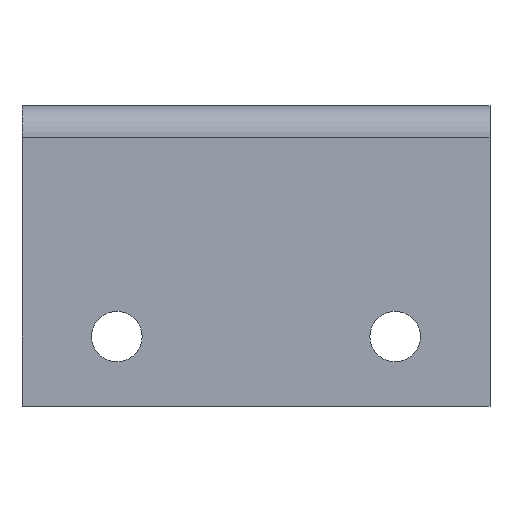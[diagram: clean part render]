
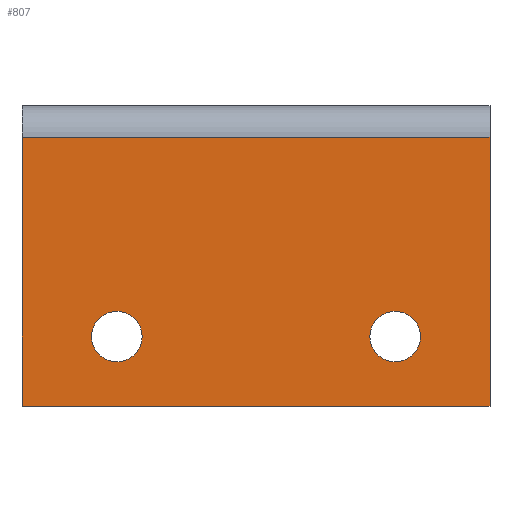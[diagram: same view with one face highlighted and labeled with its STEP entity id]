
A CAD part, front view. The second image highlights one B-rep face of the part: STEP entity #807.
In plain terms, the highlighted planar face has unit normal (0, -1, 0).
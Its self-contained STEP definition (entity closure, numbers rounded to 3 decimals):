
#12 = DIRECTION ( 'NONE',  ( 1., 0., 0. ) ) ;
#33 = EDGE_CURVE ( 'NONE', #350, #722, #107, .T. ) ;
#56 = CARTESIAN_POINT ( 'NONE',  ( -59., -114., -14.5 ) ) ;
#63 = CARTESIAN_POINT ( 'NONE',  ( 0., -114., 21. ) ) ;
#71 = DIRECTION ( 'NONE',  ( 0., 0., -1. ) ) ;
#88 = DIRECTION ( 'NONE',  ( -1., 0., 0. ) ) ;
#90 = ORIENTED_EDGE ( 'NONE', *, *, #696, .F. ) ;
#107 = LINE ( 'NONE', #947, #1363 ) ;
#142 = VERTEX_POINT ( 'NONE', #509 ) ;
#149 = CARTESIAN_POINT ( 'NONE',  ( -15., -114., -10.5 ) ) ;
#162 = AXIS2_PLACEMENT_3D ( 'NONE', #212, #549, #905 ) ;
#184 = CARTESIAN_POINT ( 'NONE',  ( -74., -114., 11.463 ) ) ;
#190 = CARTESIAN_POINT ( 'NONE',  ( 0., -114., 26. ) ) ;
#196 = EDGE_CURVE ( 'NONE', #142, #1464, #443, .T. ) ;
#202 = CIRCLE ( 'NONE', #732, 4. ) ;
#212 = CARTESIAN_POINT ( 'NONE',  ( -15., -114., -10.5 ) ) ;
#215 = DIRECTION ( 'NONE',  ( 0., 1., 0. ) ) ;
#244 = VERTEX_POINT ( 'NONE', #740 ) ;
#247 = VERTEX_POINT ( 'NONE', #56 ) ;
#266 = ORIENTED_EDGE ( 'NONE', *, *, #1253, .F. ) ;
#284 = AXIS2_PLACEMENT_3D ( 'NONE', #428, #1027, #1250 ) ;
#305 = EDGE_LOOP ( 'NONE', ( #266, #557, #90, #819 ) ) ;
#313 = CARTESIAN_POINT ( 'NONE',  ( -74., -114., -21.5 ) ) ;
#337 = ORIENTED_EDGE ( 'NONE', *, *, #690, .T. ) ;
#350 = VERTEX_POINT ( 'NONE', #412 ) ;
#379 = DIRECTION ( 'NONE',  ( 0., 0., -1. ) ) ;
#412 = CARTESIAN_POINT ( 'NONE',  ( -74., -114., 21. ) ) ;
#421 = PLANE ( 'NONE',  #284 ) ;
#428 = CARTESIAN_POINT ( 'NONE',  ( -74., -114., -21.5 ) ) ;
#441 = VECTOR ( 'NONE', #1342, 1000. ) ;
#443 = CIRCLE ( 'NONE', #500, 4. ) ;
#448 = ORIENTED_EDGE ( 'NONE', *, *, #799, .T. ) ;
#460 = LINE ( 'NONE', #313, #828 ) ;
#500 = AXIS2_PLACEMENT_3D ( 'NONE', #149, #506, #379 ) ;
#506 = DIRECTION ( 'NONE',  ( 0., 1., 0. ) ) ;
#509 = CARTESIAN_POINT ( 'NONE',  ( -15., -114., -6.5 ) ) ;
#512 = LINE ( 'NONE', #184, #441 ) ;
#518 = CARTESIAN_POINT ( 'NONE',  ( -59., -114., -10.5 ) ) ;
#539 = AXIS2_PLACEMENT_3D ( 'NONE', #806, #215, #1043 ) ;
#549 = DIRECTION ( 'NONE',  ( 0., 1., 0. ) ) ;
#557 = ORIENTED_EDGE ( 'NONE', *, *, #33, .F. ) ;
#608 = CIRCLE ( 'NONE', #539, 4. ) ;
#652 = DIRECTION ( 'NONE',  ( 0., 1., 0. ) ) ;
#655 = EDGE_LOOP ( 'NONE', ( #1304, #337 ) ) ;
#671 = VERTEX_POINT ( 'NONE', #844 ) ;
#690 = EDGE_CURVE ( 'NONE', #671, #247, #202, .T. ) ;
#696 = EDGE_CURVE ( 'NONE', #244, #350, #512, .T. ) ;
#721 = VERTEX_POINT ( 'NONE', #880 ) ;
#722 = VERTEX_POINT ( 'NONE', #63 ) ;
#732 = AXIS2_PLACEMENT_3D ( 'NONE', #518, #652, #71 ) ;
#740 = CARTESIAN_POINT ( 'NONE',  ( -74., -114., -21.5 ) ) ;
#753 = CIRCLE ( 'NONE', #162, 4. ) ;
#799 = EDGE_CURVE ( 'NONE', #1464, #142, #753, .T. ) ;
#806 = CARTESIAN_POINT ( 'NONE',  ( -59., -114., -10.5 ) ) ;
#807 = ADVANCED_FACE ( 'NONE', ( #1360, #1280, #1046 ), #421, .T. ) ;
#819 = ORIENTED_EDGE ( 'NONE', *, *, #903, .F. ) ;
#828 = VECTOR ( 'NONE', #88, 1000. ) ;
#844 = CARTESIAN_POINT ( 'NONE',  ( -59., -114., -6.5 ) ) ;
#880 = CARTESIAN_POINT ( 'NONE',  ( 0., -114., -21.5 ) ) ;
#903 = EDGE_CURVE ( 'NONE', #721, #244, #460, .T. ) ;
#905 = DIRECTION ( 'NONE',  ( 0., 0., -1. ) ) ;
#947 = CARTESIAN_POINT ( 'NONE',  ( -74., -114., 21. ) ) ;
#1011 = EDGE_CURVE ( 'NONE', #247, #671, #608, .T. ) ;
#1027 = DIRECTION ( 'NONE',  ( 0., -1., 0. ) ) ;
#1043 = DIRECTION ( 'NONE',  ( 0., 0., -1. ) ) ;
#1046 = FACE_OUTER_BOUND ( 'NONE', #305, .T. ) ;
#1078 = LINE ( 'NONE', #190, #1152 ) ;
#1103 = DIRECTION ( 'NONE',  ( 0., 0., -1. ) ) ;
#1152 = VECTOR ( 'NONE', #1103, 1000. ) ;
#1223 = ORIENTED_EDGE ( 'NONE', *, *, #196, .T. ) ;
#1250 = DIRECTION ( 'NONE',  ( 0., 0., -1. ) ) ;
#1253 = EDGE_CURVE ( 'NONE', #722, #721, #1078, .T. ) ;
#1280 = FACE_BOUND ( 'NONE', #1348, .T. ) ;
#1304 = ORIENTED_EDGE ( 'NONE', *, *, #1011, .T. ) ;
#1342 = DIRECTION ( 'NONE',  ( 0., 0., 1. ) ) ;
#1348 = EDGE_LOOP ( 'NONE', ( #448, #1223 ) ) ;
#1360 = FACE_BOUND ( 'NONE', #655, .T. ) ;
#1363 = VECTOR ( 'NONE', #12, 1000. ) ;
#1378 = CARTESIAN_POINT ( 'NONE',  ( -15., -114., -14.5 ) ) ;
#1464 = VERTEX_POINT ( 'NONE', #1378 ) ;
